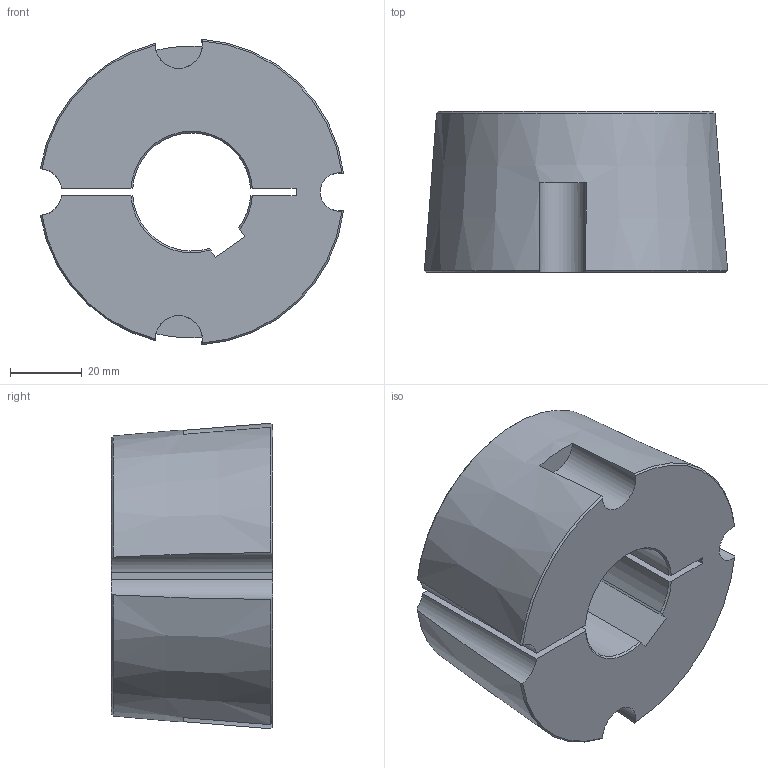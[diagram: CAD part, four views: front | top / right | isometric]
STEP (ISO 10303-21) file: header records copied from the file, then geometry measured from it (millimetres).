
FILE_DESCRIPTION(/* description */ (''),/* implementation_level */ '2;1');
FILE_NAME(/* name */ '\\emc\Varie\PROGETTO SCUOLA\29\BUSSOLE CONICHE-3d\29251732.stp',/* time_stamp */ '2017-12-27T10:34:47+01:00',/* author */ ('stagistacad'),/* organization */ (''),/* preprocessor_version */ 'ST-DEVELOPER v15.6',/* originating_system */ 'Autodesk Inventor 2015',/* authorisation */ '');
FILE_SCHEMA (('AUTOMOTIVE_DESIGN { 1 0 10303 214 3 1 1 }'));
Length unit declared in the file: millimetre
Products named in the file (1): 29251732
Bounding box: 84.74 x 45 x 85.39 mm (x, y, z)
Volume: 187962.8 mm3; surface area: 28386.3 mm2
Topology: 1 solids, 1 shells, 34 faces, 96 edges, 64 vertices
Faces by surface type: cone 14, plane 12, cylinder 8
Entity records: 1180 total; most frequent: CARTESIAN_POINT 311, ORIENTED_EDGE 192, DIRECTION 170, EDGE_CURVE 96, AXIS2_PLACEMENT_3D 71, VERTEX_POINT 64, CIRCLE 36, FACE_OUTER_BOUND 34
